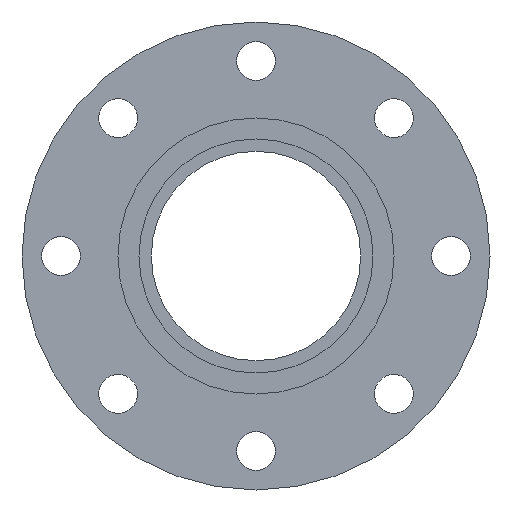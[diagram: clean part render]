
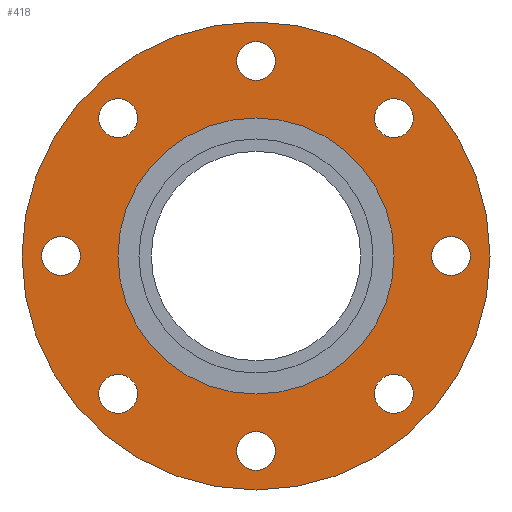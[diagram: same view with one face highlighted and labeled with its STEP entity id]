
A CAD part, left-side view. The second image highlights one B-rep face of the part: STEP entity #418.
In plain terms, the highlighted planar face has unit normal (-1, 0, 0).
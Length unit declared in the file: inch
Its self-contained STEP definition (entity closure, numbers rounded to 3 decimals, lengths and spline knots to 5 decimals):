
#14=FACE_BOUND('',#72,.T.);
#15=FACE_BOUND('',#73,.T.);
#16=FACE_BOUND('',#74,.T.);
#17=FACE_BOUND('',#75,.T.);
#18=FACE_BOUND('',#76,.T.);
#19=FACE_BOUND('',#77,.T.);
#20=FACE_BOUND('',#78,.T.);
#21=FACE_BOUND('',#79,.T.);
#22=FACE_BOUND('',#80,.T.);
#36=PLANE('',#478);
#51=FACE_OUTER_BOUND('',#71,.T.);
#71=EDGE_LOOP('',(#304,#305));
#72=EDGE_LOOP('',(#306));
#73=EDGE_LOOP('',(#307));
#74=EDGE_LOOP('',(#308));
#75=EDGE_LOOP('',(#309));
#76=EDGE_LOOP('',(#310));
#77=EDGE_LOOP('',(#311));
#78=EDGE_LOOP('',(#312));
#79=EDGE_LOOP('',(#313));
#80=EDGE_LOOP('',(#314,#315));
#133=CIRCLE('',#451,0.375);
#135=CIRCLE('',#454,0.375);
#137=CIRCLE('',#457,0.375);
#139=CIRCLE('',#460,0.375);
#141=CIRCLE('',#463,0.375);
#143=CIRCLE('',#466,0.375);
#145=CIRCLE('',#469,0.375);
#147=CIRCLE('',#472,0.375);
#148=CIRCLE('',#474,4.5);
#149=CIRCLE('',#475,4.5);
#152=CIRCLE('',#479,2.655);
#153=CIRCLE('',#480,2.655);
#173=VERTEX_POINT('',#649);
#175=VERTEX_POINT('',#655);
#177=VERTEX_POINT('',#661);
#179=VERTEX_POINT('',#667);
#181=VERTEX_POINT('',#673);
#183=VERTEX_POINT('',#679);
#185=VERTEX_POINT('',#685);
#187=VERTEX_POINT('',#691);
#188=VERTEX_POINT('',#695);
#189=VERTEX_POINT('',#696);
#192=VERTEX_POINT('',#705);
#193=VERTEX_POINT('',#706);
#214=EDGE_CURVE('',#173,#173,#133,.T.);
#217=EDGE_CURVE('',#175,#175,#135,.T.);
#220=EDGE_CURVE('',#177,#177,#137,.T.);
#223=EDGE_CURVE('',#179,#179,#139,.T.);
#226=EDGE_CURVE('',#181,#181,#141,.T.);
#229=EDGE_CURVE('',#183,#183,#143,.T.);
#232=EDGE_CURVE('',#185,#185,#145,.T.);
#235=EDGE_CURVE('',#187,#187,#147,.T.);
#236=EDGE_CURVE('',#188,#189,#148,.T.);
#237=EDGE_CURVE('',#189,#188,#149,.T.);
#241=EDGE_CURVE('',#192,#193,#152,.T.);
#242=EDGE_CURVE('',#193,#192,#153,.T.);
#304=ORIENTED_EDGE('',*,*,#236,.T.);
#305=ORIENTED_EDGE('',*,*,#237,.T.);
#306=ORIENTED_EDGE('',*,*,#214,.T.);
#307=ORIENTED_EDGE('',*,*,#217,.T.);
#308=ORIENTED_EDGE('',*,*,#220,.T.);
#309=ORIENTED_EDGE('',*,*,#223,.T.);
#310=ORIENTED_EDGE('',*,*,#226,.T.);
#311=ORIENTED_EDGE('',*,*,#229,.T.);
#312=ORIENTED_EDGE('',*,*,#232,.T.);
#313=ORIENTED_EDGE('',*,*,#235,.T.);
#314=ORIENTED_EDGE('',*,*,#241,.F.);
#315=ORIENTED_EDGE('',*,*,#242,.F.);
#418=ADVANCED_FACE('',(#51,#14,#15,#16,#17,#18,#19,#20,#21,#22),#36,.T.);
#451=AXIS2_PLACEMENT_3D('',#651,#516,#517);
#454=AXIS2_PLACEMENT_3D('',#657,#523,#524);
#457=AXIS2_PLACEMENT_3D('',#663,#530,#531);
#460=AXIS2_PLACEMENT_3D('',#669,#537,#538);
#463=AXIS2_PLACEMENT_3D('',#675,#544,#545);
#466=AXIS2_PLACEMENT_3D('',#681,#551,#552);
#469=AXIS2_PLACEMENT_3D('',#687,#558,#559);
#472=AXIS2_PLACEMENT_3D('',#693,#565,#566);
#474=AXIS2_PLACEMENT_3D('',#697,#569,#570);
#475=AXIS2_PLACEMENT_3D('',#698,#571,#572);
#478=AXIS2_PLACEMENT_3D('',#704,#578,#579);
#479=AXIS2_PLACEMENT_3D('',#707,#580,#581);
#480=AXIS2_PLACEMENT_3D('',#708,#582,#583);
#516=DIRECTION('center_axis',(1.,0.,0.));
#517=DIRECTION('ref_axis',(0.,-0.707,0.707));
#523=DIRECTION('center_axis',(1.,0.,0.));
#524=DIRECTION('ref_axis',(0.,-1.,0.));
#530=DIRECTION('center_axis',(1.,0.,0.));
#531=DIRECTION('ref_axis',(0.,-0.707,-0.707));
#537=DIRECTION('center_axis',(1.,0.,0.));
#538=DIRECTION('ref_axis',(0.,0.,-1.));
#544=DIRECTION('center_axis',(1.,0.,0.));
#545=DIRECTION('ref_axis',(0.,0.707,-0.707));
#551=DIRECTION('center_axis',(1.,0.,0.));
#552=DIRECTION('ref_axis',(0.,1.,0.));
#558=DIRECTION('center_axis',(1.,0.,0.));
#559=DIRECTION('ref_axis',(0.,0.707,0.707));
#565=DIRECTION('center_axis',(1.,0.,0.));
#566=DIRECTION('ref_axis',(0.,0.,1.));
#569=DIRECTION('center_axis',(-1.,0.,0.));
#570=DIRECTION('ref_axis',(0.,0.,1.));
#571=DIRECTION('center_axis',(-1.,0.,0.));
#572=DIRECTION('ref_axis',(0.,0.,1.));
#578=DIRECTION('center_axis',(-1.,0.,0.));
#579=DIRECTION('ref_axis',(0.,0.,1.));
#580=DIRECTION('center_axis',(-1.,0.,0.));
#581=DIRECTION('ref_axis',(0.,0.,1.));
#582=DIRECTION('center_axis',(-1.,0.,0.));
#583=DIRECTION('ref_axis',(0.,0.,1.));
#649=CARTESIAN_POINT('',(-0.94,2.91682,-2.91682));
#651=CARTESIAN_POINT('Origin',(-0.94,2.65165,-2.65165));
#655=CARTESIAN_POINT('',(-0.94,4.125,0.));
#657=CARTESIAN_POINT('Origin',(-0.94,3.75,0.));
#661=CARTESIAN_POINT('',(-0.94,2.91682,2.91682));
#663=CARTESIAN_POINT('Origin',(-0.94,2.65165,2.65165));
#667=CARTESIAN_POINT('',(-0.94,0.,4.125));
#669=CARTESIAN_POINT('Origin',(-0.94,0.,3.75));
#673=CARTESIAN_POINT('',(-0.94,-2.91682,2.91682));
#675=CARTESIAN_POINT('Origin',(-0.94,-2.65165,2.65165));
#679=CARTESIAN_POINT('',(-0.94,-4.125,0.));
#681=CARTESIAN_POINT('Origin',(-0.94,-3.75,0.));
#685=CARTESIAN_POINT('',(-0.94,-2.91682,-2.91682));
#687=CARTESIAN_POINT('Origin',(-0.94,-2.65165,-2.65165));
#691=CARTESIAN_POINT('',(-0.94,0.,-4.125));
#693=CARTESIAN_POINT('Origin',(-0.94,0.,-3.75));
#695=CARTESIAN_POINT('',(-0.94,0.,4.5));
#696=CARTESIAN_POINT('',(-0.94,0.,-4.5));
#697=CARTESIAN_POINT('Origin',(-0.94,0.,0.));
#698=CARTESIAN_POINT('Origin',(-0.94,0.,0.));
#704=CARTESIAN_POINT('Origin',(-0.94,0.,3.5775));
#705=CARTESIAN_POINT('',(-0.94,0.,2.655));
#706=CARTESIAN_POINT('',(-0.94,0.,-2.655));
#707=CARTESIAN_POINT('Origin',(-0.94,0.,0.));
#708=CARTESIAN_POINT('Origin',(-0.94,0.,0.));
